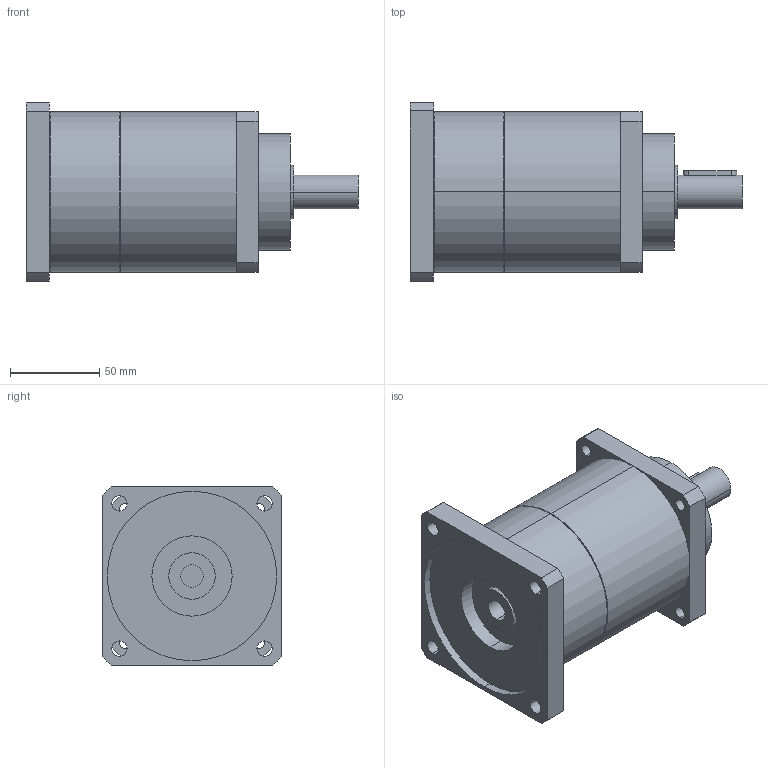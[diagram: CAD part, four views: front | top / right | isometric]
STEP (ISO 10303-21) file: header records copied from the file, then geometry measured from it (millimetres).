
FILE_DESCRIPTION(('CoCreate Modeling STEP Export'),'2;1');
FILE_NAME('GPT90_ig-9-12-16-20-25-28-35-40-50-70-100_19_B5T_12.7_P07.stp','2015-02-04T11:27:26',(''),(''),'CoCreate Modeling STEP processor for AP214 (Solid Model)','CoCreate Modeling 16.00C 25-Feb-2009 (C) Parametric Technology GmbH','');
FILE_SCHEMA(('AUTOMOTIVE_DESIGN { 1 0 10303 214 1 1 1 1 }'));
Length unit declared in the file: millimetre
Products named in the file (2): GPT90_ig-9-12-16-20-25-28-35-40-50-70-100_19_B5T_12.7_P07
Assembly tree (1 placements, depth 2):
  GPT90_ig-9-12-16-20-25-28-35-40-50-70-100_19_B5T_12.7_P07
    GPT90_ig-9-12-16-20-25-28-35-40-50-70-100_19_B5T_12.7_P07
Bounding box: 186 x 100 x 100 mm (x, y, z)
Volume: 912217 mm3; surface area: 74973 mm2
Topology: 1 solids, 1 shells, 77 faces, 206 edges, 141 vertices
Faces by surface type: cylinder 46, plane 27, cone 4
Entity records: 2596 total; most frequent: CARTESIAN_POINT 742, ORIENTED_EDGE 412, DIRECTION 324, EDGE_CURVE 206, VERTEX_POINT 141, AXIS2_PLACEMENT_3D 120, EDGE_LOOP 103, VECTOR 84
